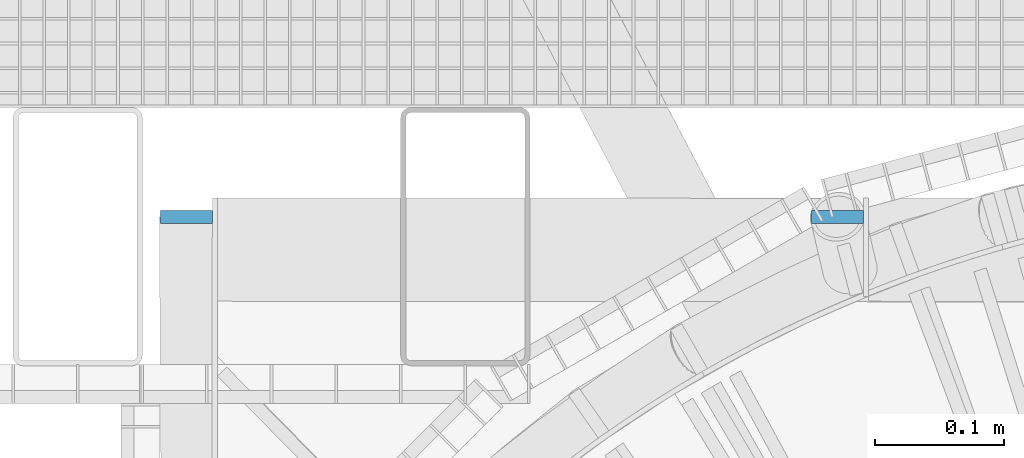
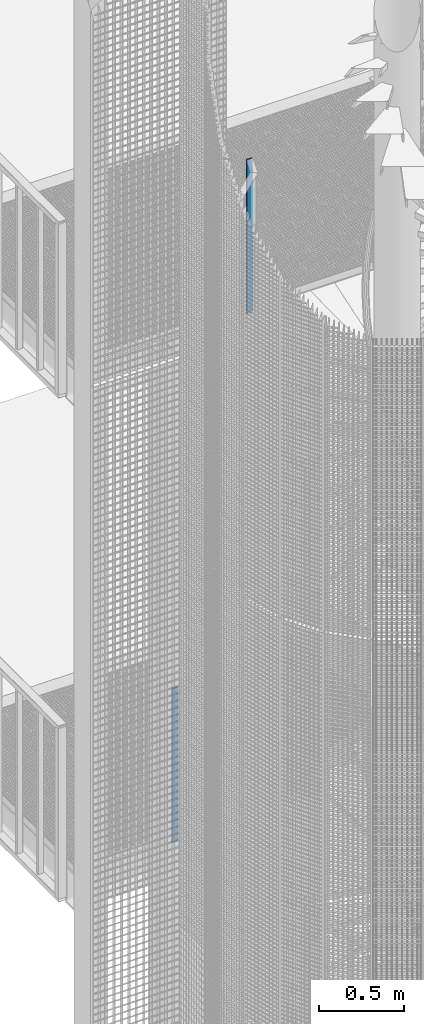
# One storey, part 59 of 1183: 2 columns, 2 elements without a shape of their own.
"""IFC2X3 building model written with IfcOpenShell, lengths in millimetres."""

from ifc_helpers import new_model, si_unit, frame, origin_with_axes, origin_2d_with_axis, place, context, subcontext, project, spatial, rectangle, extrude, material, type_object, element, aggregate, save


model = new_model("IFC2X3")

# Units and contexts
model_context = context("Model", 3, precision=1e-05, world=origin_with_axes())
body_context = subcontext(model_context, "Body", "Model", "MODEL_VIEW")
ifc_project = project(units=[si_unit("LENGTHUNIT", "METRE", prefix="MILLI"), si_unit("AREAUNIT", "SQUARE_METRE"), si_unit("VOLUMEUNIT", "CUBIC_METRE"), si_unit("MASSUNIT", "GRAM", prefix="KILO"), si_unit("TIMEUNIT", "SECOND"), si_unit("PLANEANGLEUNIT", "RADIAN"), si_unit("SOLIDANGLEUNIT", "STERADIAN"), si_unit("THERMODYNAMICTEMPERATUREUNIT", "DEGREE_CELSIUS"), si_unit("LUMINOUSINTENSITYUNIT", "LUMEN")], contexts=[model_context])

# Site, building, storey
site_placement = place(None, origin_with_axes())
site = spatial("IfcSite", under=ifc_project, at=site_placement, Name="Undefined", CompositionType="ELEMENT")
building_placement = place(site_placement, origin_with_axes())
building = spatial("IfcBuilding", under=site, at=building_placement, Name="Undefined", CompositionType="ELEMENT")
storey_placement = place(building_placement, origin_with_axes())
storey = spatial("IfcBuildingStorey", under=building, at=storey_placement, Name="Undefined", CompositionType="ELEMENT", Elevation=0.0)

# Assembly, column
assembly_1_placement = place(storey_placement, origin_with_axes())
assembly_1 = element("IfcElementAssembly", 1, at=assembly_1_placement, inside=storey, Name="MONTANT", AssemblyPlace="NOTDEFINED", PredefinedType="NOTDEFINED")
ifc_material = material(Name="STEEL/S235JR")
column_type = type_object("IfcColumnType", Name="PL10*40", PredefinedType="NOTDEFINED")
column_1_placement = place(assembly_1_placement, frame((21188.0478792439, 1015.37075756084, 10089.84), z_axis=(0.0, 0.0, 1.0), x_axis=(0.999999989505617, -0.000144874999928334, 0.0)))
column_1 = element("IfcColumn", 2, at=column_1_placement, type_object=column_type, material=ifc_material, Name="MONTANT", context=body_context, shape_type="SweptSolid", body=[
    extrude(rectangle(XDim=10.0, YDim=40.0, at=origin_2d_with_axis()), frame((0.0, 0.0, 1100.0), z_axis=(0.0, 0.0, -1.0), x_axis=(0.0, 1.0, 0.0)), (0.0, 0.0, 1.0), 1100.0),
])
aggregate(assembly_1, [column_1])

assembly_2_placement = place(storey_placement, origin_with_axes())
assembly_2 = element("IfcElementAssembly", 3, at=assembly_2_placement, inside=storey, Name="MONTANT", AssemblyPlace="NOTDEFINED", PredefinedType="NOTDEFINED")
column_2_placement = place(assembly_2_placement, frame((20684.0478792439, 1015.37075756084, 6489.84000000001), z_axis=(0.0, 0.0, 1.0), x_axis=(0.999999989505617, -0.000144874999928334, 0.0)))
column_2 = element("IfcColumn", 4, at=column_2_placement, type_object=column_type, material=ifc_material, Name="MONTANT", context=body_context, shape_type="SweptSolid", body=[
    extrude(rectangle(XDim=10.0, YDim=40.0, at=origin_2d_with_axis()), frame((0.0, 0.0, 1100.0), z_axis=(0.0, 0.0, -1.0), x_axis=(0.0, 1.0, 0.0)), (0.0, 0.0, 1.0), 1100.0),
])
aggregate(assembly_2, [column_2])

save(model, "model.ifc")
